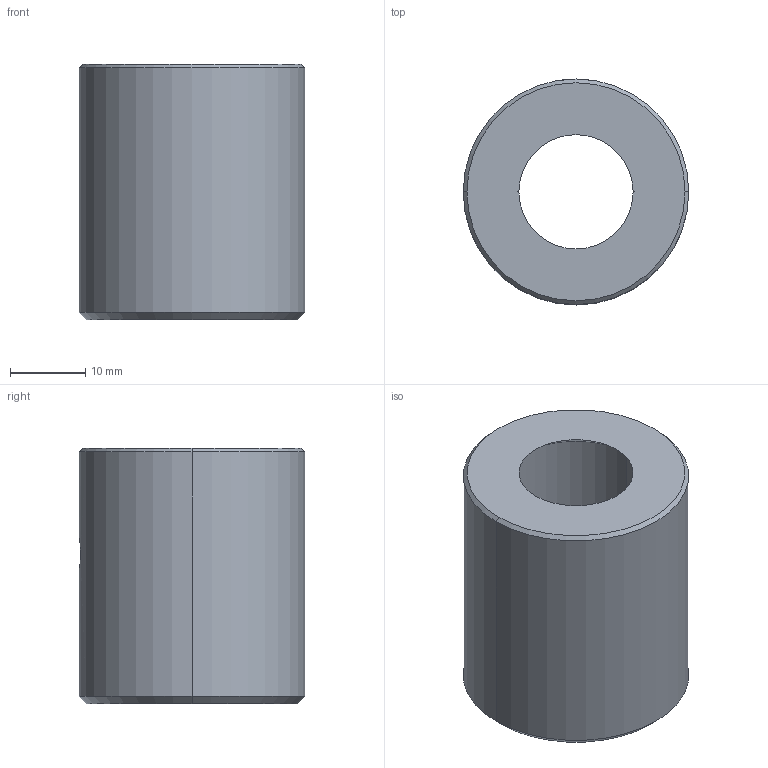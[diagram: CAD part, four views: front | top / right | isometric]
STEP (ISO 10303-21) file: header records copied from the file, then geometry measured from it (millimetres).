
FILE_DESCRIPTION((''),'2;1');
FILE_NAME('2100-458','2010-09-14T',('on'),(''),'PRO/ENGINEER BY PARAMETRIC TECHNOLOGY CORPORATION, 2005110','PRO/ENGINEER BY PARAMETRIC TECHNOLOGY CORPORATION, 2005110','');
FILE_SCHEMA(('CONFIG_CONTROL_DESIGN'));
Length unit declared in the file: millimetre
Products named in the file (1): 2100-458
Bounding box: 30 x 30 x 34 mm (x, y, z)
Volume: 14235.6 mm3; surface area: 6149.4 mm2
Topology: 1 solids, 1 shells, 18 faces, 38 edges, 22 vertices
Faces by surface type: cone 8, cylinder 6, plane 2, bspline 2
Entity records: 738 total; most frequent: CARTESIAN_POINT 310, DIRECTION 80, ORIENTED_EDGE 76, EDGE_CURVE 38, AXIS2_PLACEMENT_3D 32, VERTEX_POINT 22, EDGE_LOOP 22, FACE_OUTER_BOUND 18
